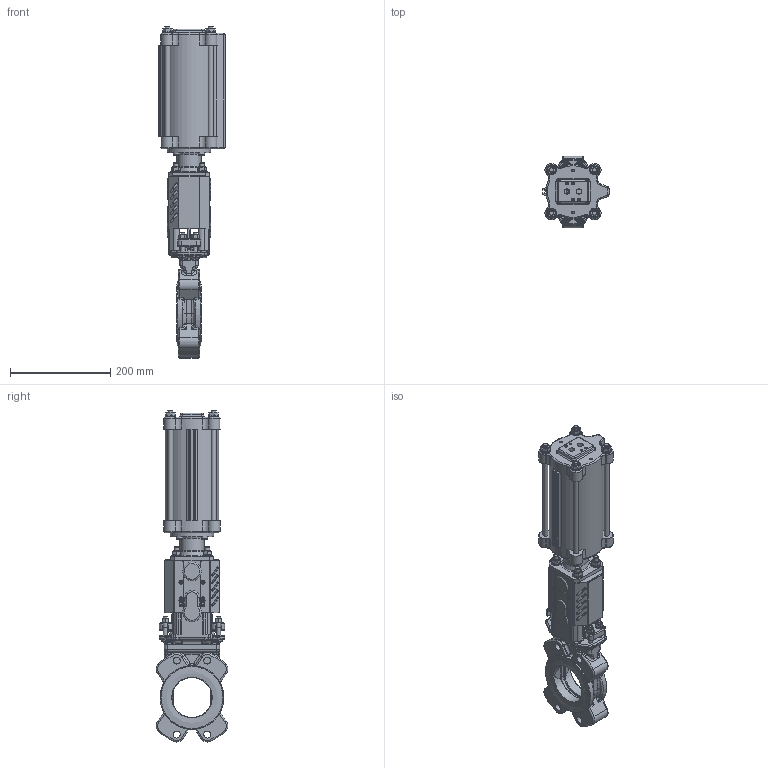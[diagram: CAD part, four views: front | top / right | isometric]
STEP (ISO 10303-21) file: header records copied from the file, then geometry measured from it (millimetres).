
FILE_DESCRIPTION(/* description */ (''),/* implementation_level */ '2;1');
FILE_NAME(/* name */ 'F:\Emir\3D-block special\WB\WB11-DN80-PN10-FRSC100-115.stp',/* time_stamp */ '2018-01-11T13:23:20+01:00',/* author */ ('emimus'),/* organization */ (''),/* preprocessor_version */ 'ST-DEVELOPER v16.5',/* originating_system */ 'Autodesk Inventor 2017',/* authorisation */ '');
FILE_SCHEMA (('CONFIG_CONTROL_DESIGN'));
Products named in the file (1): WB11-DN80-PN10-FRSC100-115_Shrinkwrap_1
Bounding box: 132 x 143.03 x 663.4 mm (x, y, z)
Volume: 2193885 mm3; surface area: 723647.2 mm2
Topology: 3 solids, 11 shells, 2547 faces, 6243 edges, 3757 vertices
Faces by surface type: plane 812, cylinder 711, torus 366, bspline 313, cone 259, sphere 86
Full cylindrical faces by diameter (mm): 3 x5, 4 x4, 4.134 x4, 4.2 x12, 4.5 x2, 4.917 x4, 6 x5, 8 x22, 8.4 x4, 8.5 x4, 9 x2, 10 x20, 10.106 x1, 10.5 x8, 11 x8, 11.445 x2, 13 x4, 14 x7, 15 x3, 16 x4, 20 x9, 20.15 x2, 22 x3, 24 x1, 26 x1, 26.4 x1, 28 x2, 40 x1, 48 x1, 55 x1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
Entity records: 98624 total; most frequent: CARTESIAN_POINT 42157, DIRECTION 11867, ORIENTED_EDGE 11558, EDGE_CURVE 5773, AXIS2_PLACEMENT_3D 4959, VERTEX_POINT 3651, EDGE_LOOP 3061, FACE_OUTER_BOUND 2547
